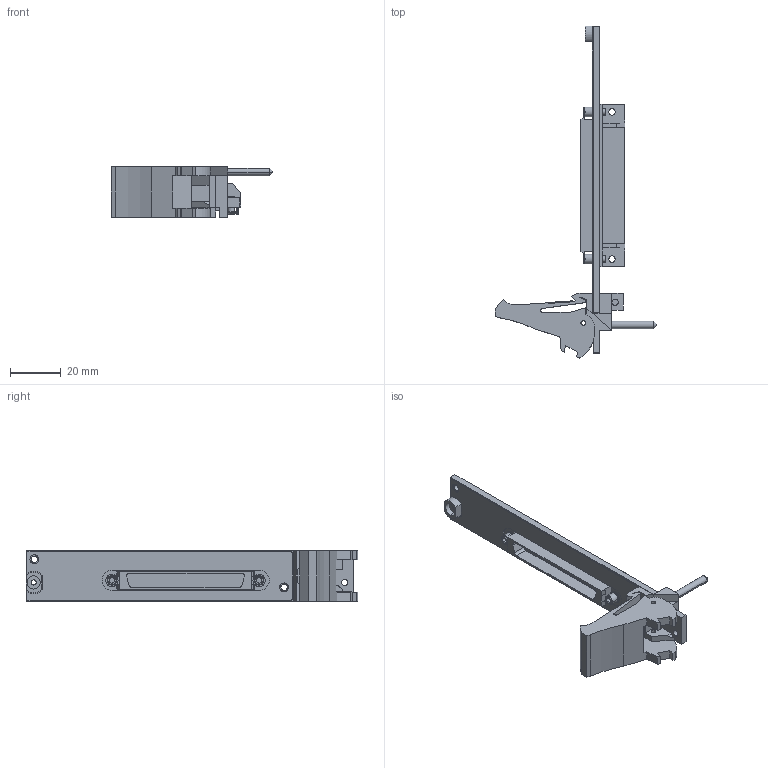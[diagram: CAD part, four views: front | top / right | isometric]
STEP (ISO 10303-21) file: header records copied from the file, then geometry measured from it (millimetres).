
FILE_DESCRIPTION((''),'2;1');
FILE_NAME('CU_PXI-6533','2007-08-03T',('lmcdanie'),(''),'PRO/ENGINEER BY PARAMETRIC TECHNOLOGY CORPORATION, 2006080','PRO/ENGINEER BY PARAMETRIC TECHNOLOGY CORPORATION, 2006080','');
FILE_SCHEMA(('CONFIG_CONTROL_DESIGN'));
Length unit declared in the file: inch
Products named in the file (1): CU_PXI-6533
Bounding box: 63.53 x 130.62 x 20.02 mm (x, y, z)
Volume: 16317.5 mm3; surface area: 15081.8 mm2
Topology: 1 solids, 1 shells, 346 faces, 940 edges, 619 vertices
Faces by surface type: plane 235, cylinder 99, cone 10, sphere 2
Entity records: 11006 total; most frequent: CARTESIAN_POINT 1941, ORIENTED_EDGE 1880, DIRECTION 1871, EDGE_CURVE 940, VECTOR 683, LINE 683, VERTEX_POINT 619, AXIS2_PLACEMENT_3D 594
